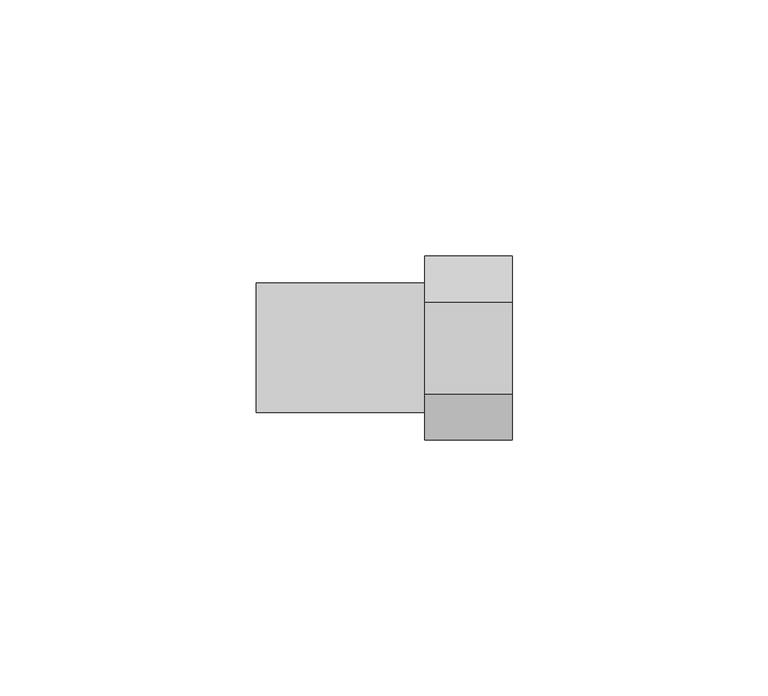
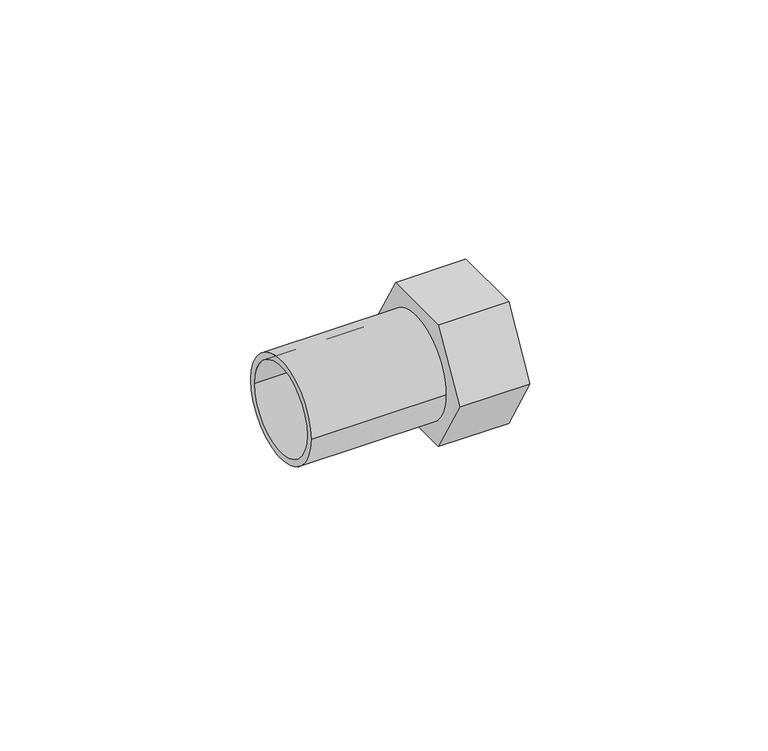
"""IFC4 building model written with IfcOpenShell, lengths in millimetres: pipe fitting geometry, VALTEC_VTi.907.I_Вставка с внутренней резьбой_Нержавеющая сталь : VTi.907.I."""

from ifc_helpers import new_model, si_unit, point, frame, origin, origin_2d, place, context, project, spatial, polyline, circle_curve, trimmed, segment, composite_curve, outline, extrude, source, transform, mapped, element, save


def pipe_fitting_837b0e8c(model_context):
    return source(origin(), model_context, "Body", "SweptSolid", [
        extrude(outline(polyline([(-18.0017814, 0.0), (-9.0008907, 15.59), (9.0008907, 15.59), (18.0017814, 0.0), (9.0008907, -15.59), (-9.0008907, -15.59), (-18.0017814, 0.0)]), holes=[composite_curve([segment(trimmed(circle_curve(origin_2d(), 7.5), [point((7.5, 0.0))], [point((-7.5, 0.0))], True, "CARTESIAN"), True, "CONTINUOUS"), segment(trimmed(circle_curve(origin_2d(), 7.5), [point((-7.5, 0.0))], [point((7.5, 0.0))], True, "CARTESIAN"), True, "CONTINUOUS")], self_intersect=False)]), frame((-8.5, 0.0, 0.0), z_axis=(1.0, 0.0, 0.0), x_axis=(0.0, 1.0, 0.0)), (0.0, 0.0, 1.0), 17.0),
        extrude(outline(composite_curve([segment(trimmed(circle_curve(origin_2d(), 12.65), [point((-12.65, 0.0))], [point((12.65, 0.0))], False, "CARTESIAN"), True, "CONTINUOUS"), segment(trimmed(circle_curve(origin_2d(), 12.65), [point((12.65, 0.0))], [point((-12.65, 0.0))], False, "CARTESIAN"), True, "CONTINUOUS")], self_intersect=False), holes=[composite_curve([segment(trimmed(circle_curve(origin_2d(), 11.0), [point((-11.0, 0.0))], [point((11.0, 0.0))], True, "CARTESIAN"), True, "CONTINUOUS"), segment(trimmed(circle_curve(origin_2d(), 11.0), [point((11.0, 0.0))], [point((-11.0, 0.0))], True, "CARTESIAN"), True, "CONTINUOUS")], self_intersect=False)]), frame((-41.5, 0.0, 0.0), z_axis=(1.0, 0.0, 0.0), x_axis=(0.0, 1.0, 0.0)), (0.0, 0.0, 1.0), 33.0),
    ])


if __name__ == "__main__":
    model = new_model("IFC4")
    model_context = context("Model", 3, world=origin())
    ifc_project = project(units=[si_unit("LENGTHUNIT", "METRE", prefix="MILLI")], contexts=[model_context])
    site = spatial("IfcSite", under=ifc_project)
    building = spatial("IfcBuilding", under=site)
    placement = place(None, origin())
    pipe_fitting_shape = pipe_fitting_837b0e8c(model_context)
    element("IfcPipeFitting", 1, ObjectType="VALTEC_VTi.907.I_Вставка с внутренней резьбой_Нержавеющая сталь : VTi.907.I", at=placement, inside=building, context=model_context, shape_type="MappedRepresentation", body=[
        mapped(pipe_fitting_shape, transform((0.0, 0.0, 0.0), x_axis=(1.0, 0.0, 0.0), y_axis=(0.0, 1.0, 0.0), z_axis=(0.0, 0.0, 1.0))),
    ])
    save(model, "model.ifc")
